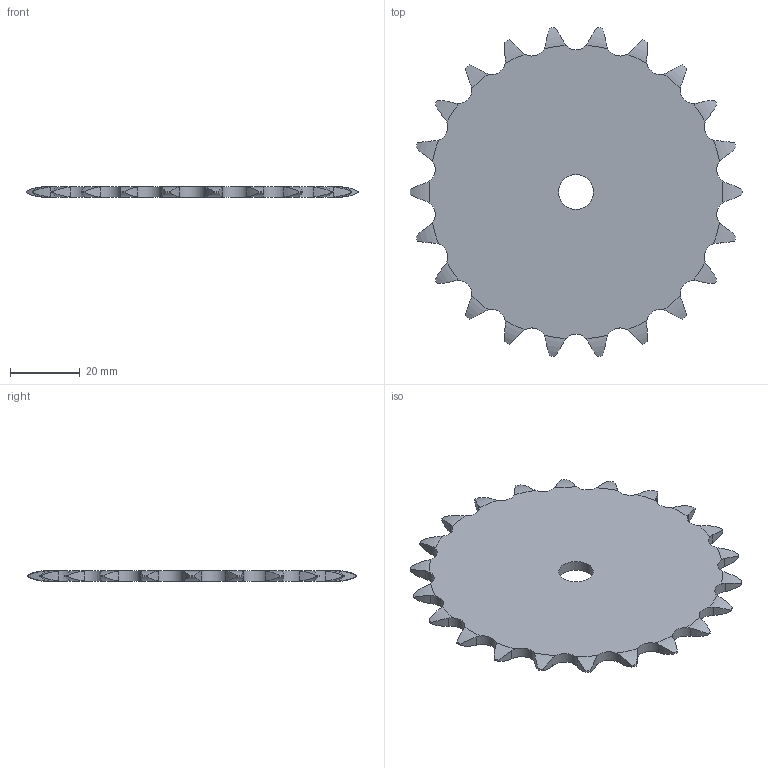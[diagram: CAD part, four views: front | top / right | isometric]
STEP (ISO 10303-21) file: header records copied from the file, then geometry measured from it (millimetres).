
FILE_DESCRIPTION((''),'2;1');
FILE_NAME('500-231-0022_PRT','2021-02-12T',('Brieden'),('Brieden'),'PRO/ENGINEER BY PARAMETRIC TECHNOLOGY CORPORATION, 2010160','PRO/ENGINEER BY PARAMETRIC TECHNOLOGY CORPORATION, 2010160','');
FILE_SCHEMA(('AUTOMOTIVE_DESIGN { 1 0 10303 214 1 1 1 1 }'));
Length unit declared in the file: millimetre
Products named in the file (1): 500-231-0022_PRT
Bounding box: 95 x 94.22 x 3 mm (x, y, z)
Volume: 17218.8 mm3; surface area: 12799.2 mm2
Topology: 1 solids, 1 shells, 136 faces, 402 edges, 268 vertices
Faces by surface type: cylinder 90, torus 44, plane 2
Entity records: 6548 total; most frequent: CARTESIAN_POINT 1847, ORIENTED_EDGE 804, DIRECTION 634, PRESENTATION_STYLE_ASSIGNMENT 403, STYLED_ITEM 403, CURVE_STYLE 402, EDGE_CURVE 402, AXIS2_PLACEMENT_3D 272
